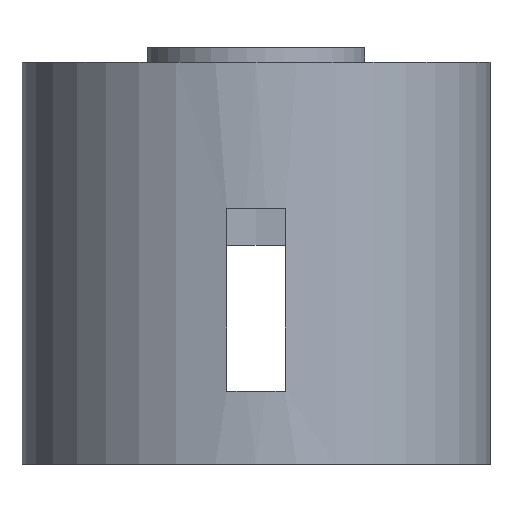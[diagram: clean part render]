
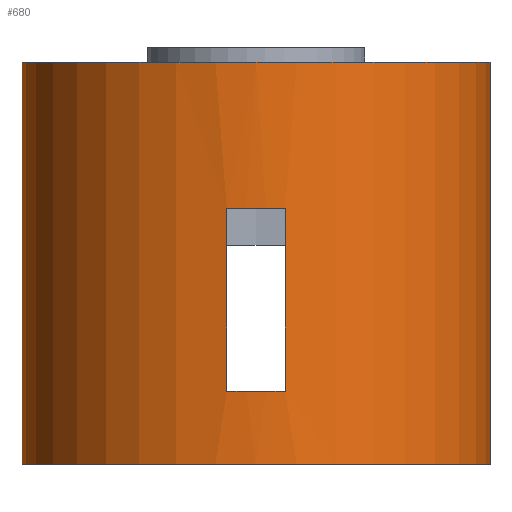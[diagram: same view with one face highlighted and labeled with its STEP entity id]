
A CAD part, left-side view. The second image highlights one B-rep face of the part: STEP entity #680.
In plain terms, the highlighted cylindrical face has radius 32 mm (diameter 64 mm), a partial arc.
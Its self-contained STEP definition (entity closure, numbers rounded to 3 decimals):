
#645 = VERTEX_POINT('',#646);
#646 = CARTESIAN_POINT('',(-48.,32.,2.));
#654 = EDGE_CURVE('',#645,#655,#657,.T.);
#655 = VERTEX_POINT('',#656);
#656 = CARTESIAN_POINT('',(-48.,32.,57.));
#657 = LINE('',#658,#659);
#658 = CARTESIAN_POINT('',(-48.,32.,2.));
#659 = VECTOR('',#660,1.);
#660 = DIRECTION('',(0.,0.,1.));
#680 = ADVANCED_FACE('',(#681,#708),#744,.T.);
#681 = FACE_BOUND('',#682,.T.);
#682 = EDGE_LOOP('',(#683,#692,#693,#702));
#683 = ORIENTED_EDGE('',*,*,#684,.F.);
#684 = EDGE_CURVE('',#655,#685,#687,.T.);
#685 = VERTEX_POINT('',#686);
#686 = CARTESIAN_POINT('',(-48.,-32.,57.));
#687 = CIRCLE('',#688,32.);
#688 = AXIS2_PLACEMENT_3D('',#689,#690,#691);
#689 = CARTESIAN_POINT('',(-48.,0.,57.));
#690 = DIRECTION('',(0.,0.,1.));
#691 = DIRECTION('',(1.,0.,0.));
#692 = ORIENTED_EDGE('',*,*,#654,.F.);
#693 = ORIENTED_EDGE('',*,*,#694,.T.);
#694 = EDGE_CURVE('',#645,#695,#697,.T.);
#695 = VERTEX_POINT('',#696);
#696 = CARTESIAN_POINT('',(-48.,-32.,2.));
#697 = CIRCLE('',#698,32.);
#698 = AXIS2_PLACEMENT_3D('',#699,#700,#701);
#699 = CARTESIAN_POINT('',(-48.,0.,2.));
#700 = DIRECTION('',(0.,0.,1.));
#701 = DIRECTION('',(1.,0.,0.));
#702 = ORIENTED_EDGE('',*,*,#703,.T.);
#703 = EDGE_CURVE('',#695,#685,#704,.T.);
#704 = LINE('',#705,#706);
#705 = CARTESIAN_POINT('',(-48.,-32.,2.));
#706 = VECTOR('',#707,1.);
#707 = DIRECTION('',(0.,0.,1.));
#708 = FACE_BOUND('',#709,.T.);
#709 = EDGE_LOOP('',(#710,#721,#729,#738));
#710 = ORIENTED_EDGE('',*,*,#711,.F.);
#711 = EDGE_CURVE('',#712,#714,#716,.T.);
#712 = VERTEX_POINT('',#713);
#713 = CARTESIAN_POINT('',(-79.749,4.,12.));
#714 = VERTEX_POINT('',#715);
#715 = CARTESIAN_POINT('',(-79.749,-4.,12.));
#716 = CIRCLE('',#717,32.);
#717 = AXIS2_PLACEMENT_3D('',#718,#719,#720);
#718 = CARTESIAN_POINT('',(-48.,0.,12.));
#719 = DIRECTION('',(0.,0.,1.));
#720 = DIRECTION('',(1.,0.,0.));
#721 = ORIENTED_EDGE('',*,*,#722,.T.);
#722 = EDGE_CURVE('',#712,#723,#725,.T.);
#723 = VERTEX_POINT('',#724);
#724 = CARTESIAN_POINT('',(-79.749,4.,37.));
#725 = LINE('',#726,#727);
#726 = CARTESIAN_POINT('',(-79.749,4.,2.));
#727 = VECTOR('',#728,1.);
#728 = DIRECTION('',(0.,0.,1.));
#729 = ORIENTED_EDGE('',*,*,#730,.T.);
#730 = EDGE_CURVE('',#723,#731,#733,.T.);
#731 = VERTEX_POINT('',#732);
#732 = CARTESIAN_POINT('',(-79.749,-4.,37.));
#733 = CIRCLE('',#734,32.);
#734 = AXIS2_PLACEMENT_3D('',#735,#736,#737);
#735 = CARTESIAN_POINT('',(-48.,0.,37.));
#736 = DIRECTION('',(0.,0.,1.));
#737 = DIRECTION('',(1.,0.,0.));
#738 = ORIENTED_EDGE('',*,*,#739,.F.);
#739 = EDGE_CURVE('',#714,#731,#740,.T.);
#740 = LINE('',#741,#742);
#741 = CARTESIAN_POINT('',(-79.749,-4.,2.));
#742 = VECTOR('',#743,1.);
#743 = DIRECTION('',(0.,0.,1.));
#744 = CYLINDRICAL_SURFACE('',#745,32.);
#745 = AXIS2_PLACEMENT_3D('',#746,#747,#748);
#746 = CARTESIAN_POINT('',(-48.,0.,2.));
#747 = DIRECTION('',(0.,0.,1.));
#748 = DIRECTION('',(1.,0.,0.));
